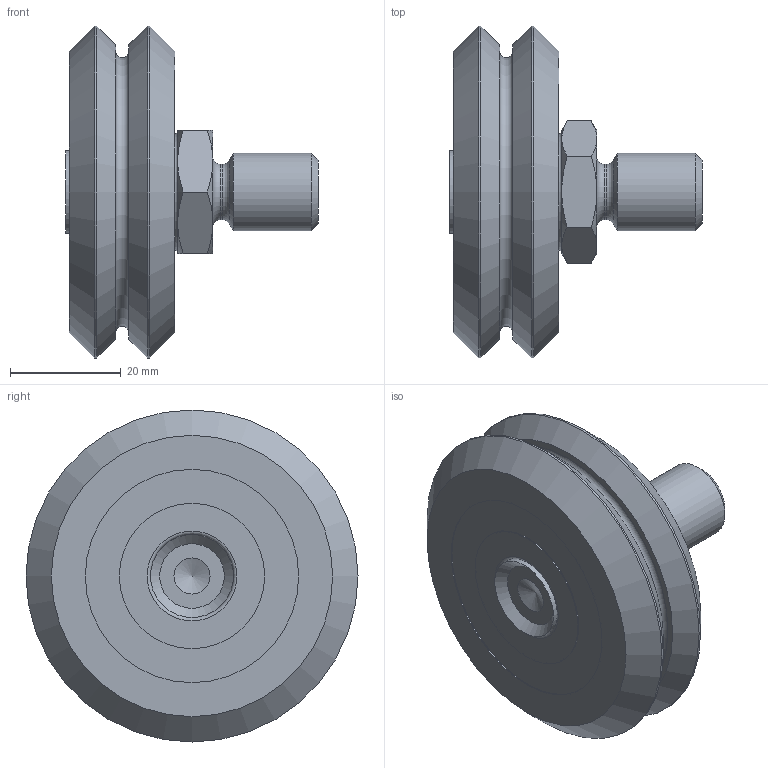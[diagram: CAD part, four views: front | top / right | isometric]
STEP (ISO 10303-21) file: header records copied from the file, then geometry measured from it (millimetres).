
FILE_DESCRIPTION( ( 'STEP AP214' ), '1' );
FILE_NAME( 'p:/temp/worker_43/temp/app_49_02019012316092699351732192d056f_000000_00_00_000000/format_0/SWSC4XA.stp', '2019-01-23T15:09:27', ( '' ), ( '' ), ' ', 'PARTsolutions', ' ' );
FILE_SCHEMA( ( 'AUTOMOTIVE_DESIGN { 1 0 10303 214 1 1 1 1 }' ) );
Length unit declared in the file: inch
Products named in the file (3): SWSC4XA; _SWSC4; _W4X
Assembly tree (2 placements, depth 2):
  SWSC4XA
    _SWSC4
    _W4X
Bounding box: 45.52 x 59.94 x 59.94 mm (x, y, z)
Volume: 50604.3 mm3; surface area: 13086.9 mm2
Topology: 2 solids, 2 shells, 64 faces, 116 edges, 69 vertices
Faces by surface type: plane 23, cone 20, cylinder 14, torus 7
Full cylindrical faces by diameter (mm): 10.008 x1, 14 x1, 14.989 x1, 15.001 x1, 25.857 x2, 26.238 x2, 38.519 x2, 38.9 x2, 59.944 x2
Entity records: 2072 total; most frequent: CARTESIAN_POINT 366, DIRECTION 252, ORIENTED_EDGE 172, AXIS2_PLACEMENT_3D 123, EDGE_LOOP 108, EDGE_CURVE 86, FACE_OUTER_BOUND 85, VERTEX_POINT 69
